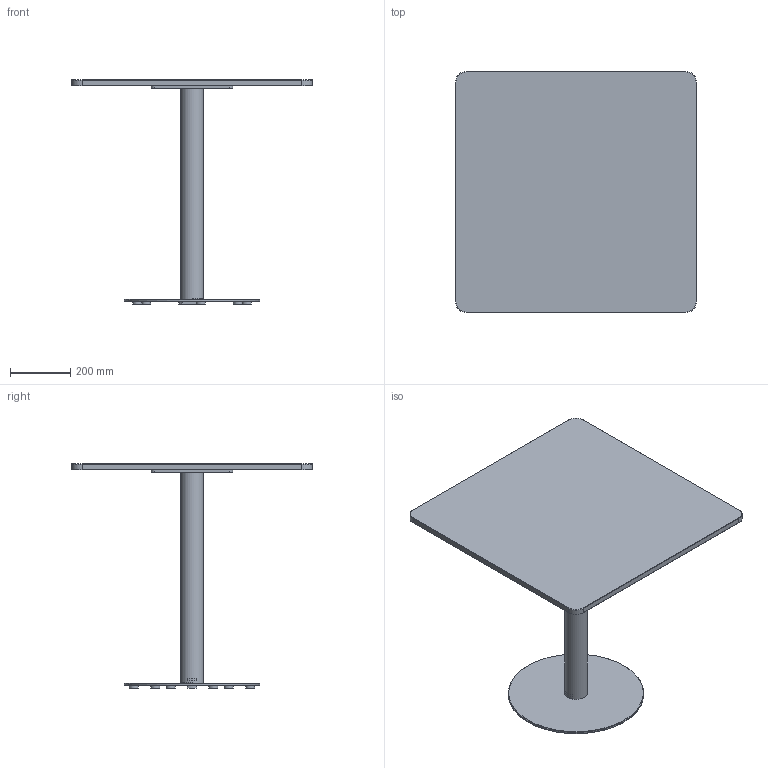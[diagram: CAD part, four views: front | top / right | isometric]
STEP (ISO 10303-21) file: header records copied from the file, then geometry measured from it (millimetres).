
FILE_DESCRIPTION( ('This file contains a STEP AP42 implementation' ,'as created by ZW3D STEP Interface translator.') ,'2;1' );
FILE_NAME( 'Henri - B_Rond - F3 - M1 - 800 x 800 x 750.stp' ,'24 912.153740', (''), ('ZWCAD Software Co.'), 'Version 1.0', 'ZW3D to STEP translator', '' );
FILE_SCHEMA(('AUTOMOTIVE_DESIGN { 1 0 10303 214 1 1 1 1 }'));
Length unit declared in the file: millimetre
Products named in the file (14): 0; PIED BISTROT PARAMETRIQUE_; COLONNE ACIER Ø76 V.02_; TUB-D076-02_; PLA-R76B-01_; SOCLE ACIER C Ø450 V.02_; SCL-D450-02_; PLA-R30A-01_; PLA-R30A-01; CROIX ACIER 370 V.02_; CRX-X370-02_; WUERTH 0276063020 Euro-screw 6.3x2 Verzinkt_; PLATEAU BISTROT PARAMETRIQUE_; insert_m6_13_
Assembly tree (24 placements, depth 3):
  0
  PIED BISTROT PARAMETRIQUE_
    COLONNE ACIER Ø76 V.02_
      TUB-D076-02_
      PLA-R76B-01_  x2
    SOCLE ACIER C Ø450 V.02_
      SCL-D450-02_
      PLA-R30A-01_
      PLA-R30A-01  x5
    CROIX ACIER 370 V.02_
      CRX-X370-02_
    WUERTH 0276063020 Euro-screw 6.3x2 Verzinkt_
    PLATEAU BISTROT PARAMETRIQUE_
      insert_m6_13_  x8
Bounding box: 800 x 800 x 744 mm (x, y, z)
Volume: 14994271.9 mm3; surface area: 2189907.8 mm2
Topology: 21 solids, 21 shells, 524 faces, 1273 edges, 802 vertices
Faces by surface type: plane 254, bspline 121, cylinder 99, cone 49, torus 1
Full cylindrical faces by diameter (mm): 4.88 x1, 6 x8, 6.3 x1, 8 x47, 12 x2, 14 x2, 30 x6, 72 x1, 76 x1, 450 x1
Entity records: 11734 total; most frequent: CARTESIAN_POINT 3302, ORIENTED_EDGE 1526, DIRECTION 1424, EDGE_CURVE 763, VERTEX_POINT 490, VECTOR 476, LINE 476, AXIS2_PLACEMENT_3D 474
